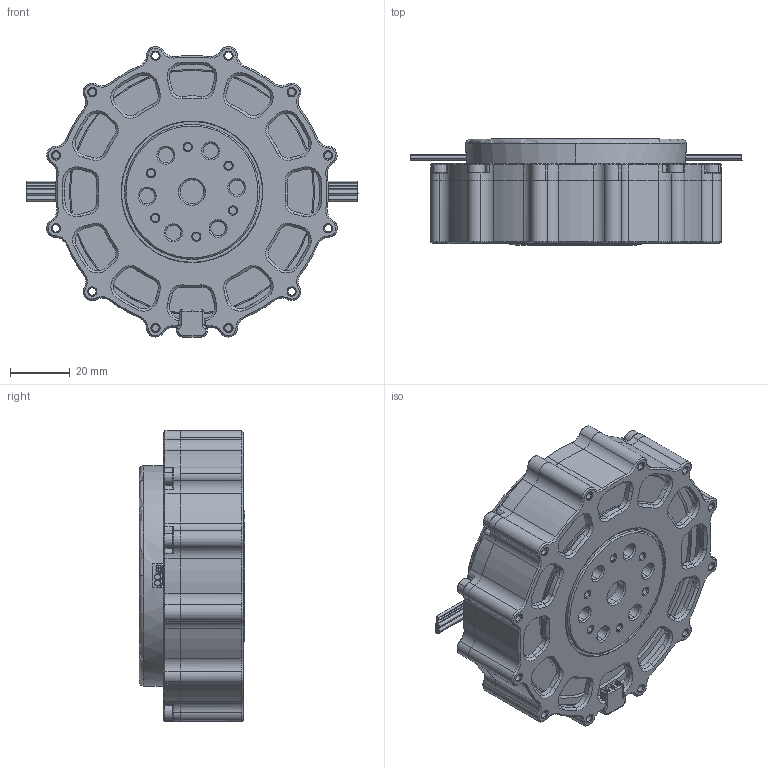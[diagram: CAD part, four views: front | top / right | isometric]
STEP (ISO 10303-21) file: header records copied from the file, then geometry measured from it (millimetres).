
FILE_DESCRIPTION (( 'STEP AP214' ), '1' );
FILE_NAME ('QDD-NU80-6_v3.0.STEP', '2019-05-20T12:02:34', ( 'Microsoft' ), ( 'Microsoft' ), 'SwSTEP 2.0', 'SolidWorks 2018', '' );
FILE_SCHEMA (( 'AUTOMOTIVE_DESIGN' ));
Length unit declared in the file: millimetre
Products named in the file (1): QDD-NU80-6_v3.0
Bounding box: 110.69 x 35.32 x 96.9 mm (x, y, z)
Surface area: 115492 mm2 (no closed solid volume)
Topology: 0 solids, 22 shells, 1642 faces, 4452 edges, 2825 vertices
Faces by surface type: cylinder 544, cone 398, bspline 340, plane 282, torus 74, sphere 4
Entity records: 80341 total; most frequent: CARTESIAN_POINT 25090, ORIENTED_EDGE 8604, DIRECTION 6519, EDGE_CURVE 4418, VERTEX_POINT 2822, AXIS2_PLACEMENT_3D 2606, EDGE_LOOP 1826, UNCERTAINTY_MEASURE_WITH_UNIT 1666
